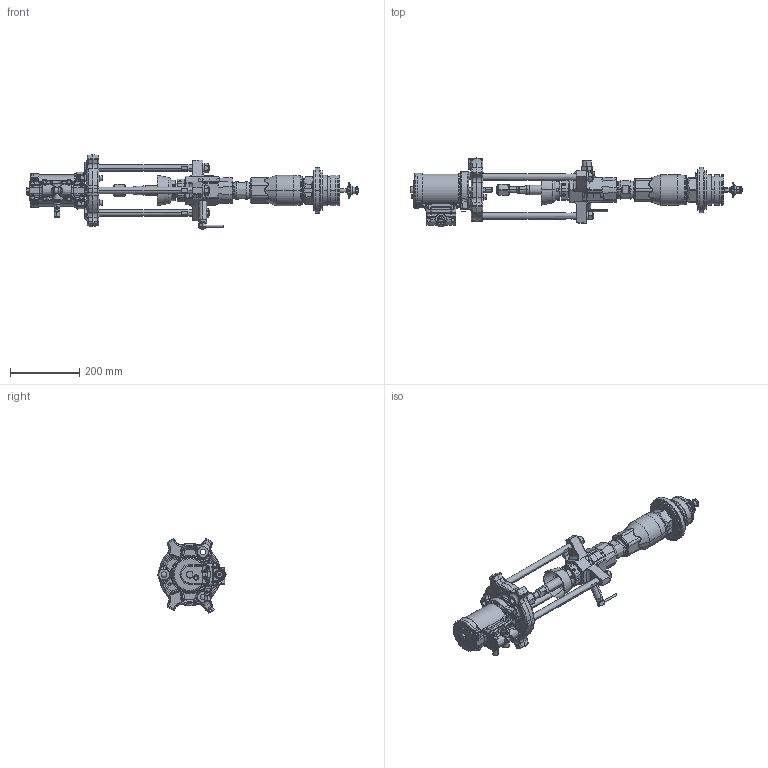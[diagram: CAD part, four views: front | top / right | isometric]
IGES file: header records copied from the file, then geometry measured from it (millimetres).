
Start section:  PTC IGES file: p05lcs-en-g.igs
Global section: file name: p05lcs-en-g.igs; native system: Creo Parametric by PTC Inc.; preprocessor: 2019030; author: qusrh3; organization: Unknown; date: 20200528.135308; units: inch
Bounding box: 960.34 x 196.97 x 215.64 mm (x, y, z)
Surface area: 659809.8 mm2 (no closed solid volume)
Topology: 0 solids, 0 shells, 2292 faces, 12770 edges, 12767 vertices
Faces by surface type: revolution 1360, bspline 932
